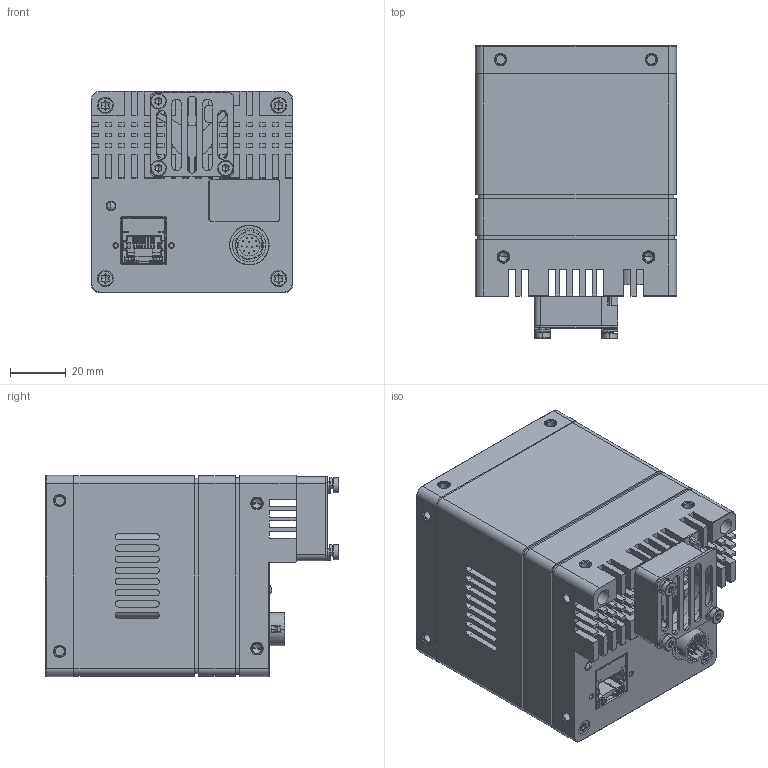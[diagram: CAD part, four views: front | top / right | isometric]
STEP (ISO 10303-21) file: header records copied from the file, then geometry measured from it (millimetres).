
FILE_DESCRIPTION((''),'2;1');
FILE_NAME('0-DH3-1878-0006_ASM_ASM','2022-08-25T11:29:09',('331929'),(''),'CREO PARAMETRIC BY PTC INC, 2020184','CREO PARAMETRIC BY PTC INC, 2020184','');
FILE_SCHEMA(('CONFIG_CONTROL_DESIGN','SHAPE_APPEARANCE_LAYERS_GROUPS'));
Products named in the file (1): 0-DH3-1878-0006_ASM_ASM
Bounding box: 72 x 104.93 x 72 mm (x, y, z)
Volume: 131320.4 mm3; surface area: 118092.1 mm2
Topology: 10 solids, 106 shells, 4041 faces, 11281 edges, 7354 vertices
Faces by surface type: plane 2130, cylinder 1353, cone 285, bspline 123, torus 106, sphere 44
Entity records: 187960 total; most frequent: CARTESIAN_POINT 35102, DIRECTION 22144, ORIENTED_EDGE 21608, PRESENTATION_STYLE_ASSIGNMENT 13174, STYLED_ITEM 11230, CURVE_STYLE 11125, EDGE_CURVE 11125, AXIS2_PLACEMENT_3D 7845
